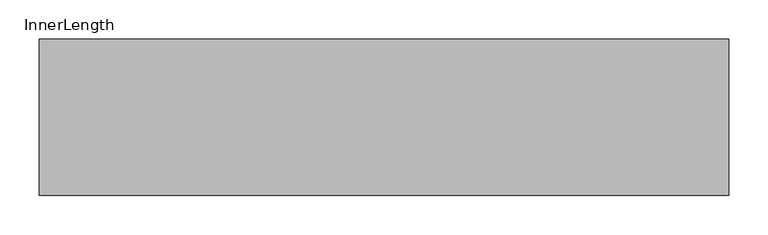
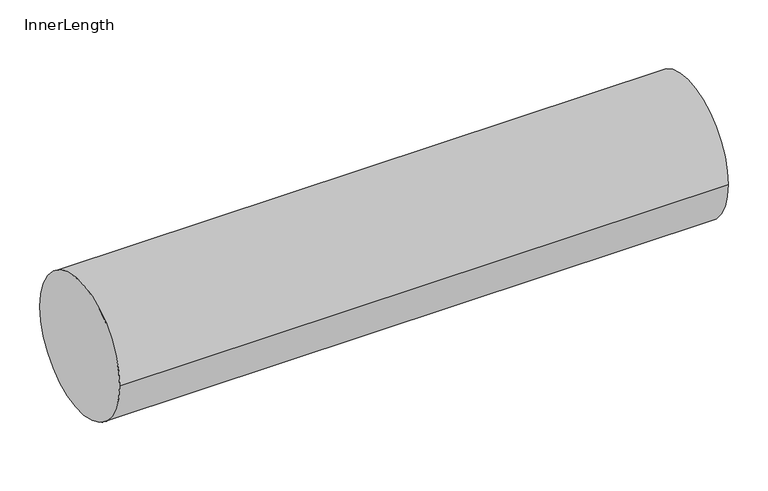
"""IFC4 building model written with IfcOpenShell, lengths in millimetres: pipe fitting geometry, CADS_Jeremias_InnerLength : InnerLength."""

from ifc_helpers import new_model, si_unit, point, frame, origin, origin_2d, place, context, project, spatial, circle_curve, trimmed, segment, composite_curve, outline, extrude, source, transform, mapped, element, save


def innerlength_3c8baf08(model_context):
    return source(origin(), model_context, "Body", "SweptSolid", [
        extrude(outline(composite_curve([segment(trimmed(circle_curve(origin_2d(), 100.0), [point((-100.0, 0.0))], [point((100.0, 0.0))], False, "CARTESIAN"), True, "CONTINUOUS"), segment(trimmed(circle_curve(origin_2d(), 100.0), [point((100.0, 0.0))], [point((-100.0, 0.0))], False, "CARTESIAN"), True, "CONTINUOUS")], self_intersect=False)), frame((0.0, 0.0, 0.0), z_axis=(1.0, 0.0, 0.0), x_axis=(0.0, 1.0, 0.0)), (0.0, 0.0, 1.0), 880.0),
    ])


if __name__ == "__main__":
    model = new_model("IFC4")
    model_context = context("Model", 3, world=origin())
    ifc_project = project(units=[si_unit("LENGTHUNIT", "METRE", prefix="MILLI")], contexts=[model_context])
    site = spatial("IfcSite", under=ifc_project)
    building = spatial("IfcBuilding", under=site)
    placement = place(None, origin())
    innerlength_shape = innerlength_3c8baf08(model_context)
    element("IfcPipeFitting", 1, ObjectType="CADS_Jeremias_InnerLength : InnerLength", at=placement, inside=building, context=model_context, shape_type="MappedRepresentation", body=[
        mapped(innerlength_shape, transform((0.0, 0.0, 0.0), x_axis=(1.0, 0.0, 0.0), y_axis=(0.0, 1.0, 0.0), z_axis=(0.0, 0.0, 1.0))),
    ])
    save(model, "model.ifc")
